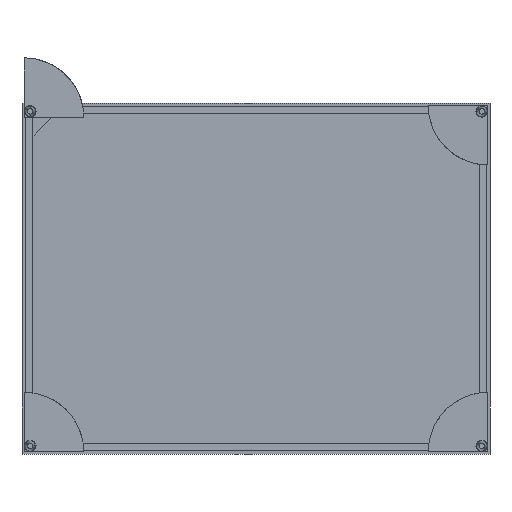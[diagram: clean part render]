
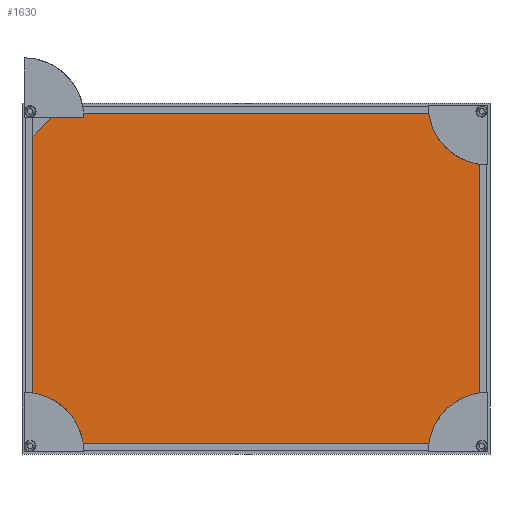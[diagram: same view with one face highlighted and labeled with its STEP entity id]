
A CAD part, front view. The second image highlights one B-rep face of the part: STEP entity #1630.
In plain terms, the highlighted free-form (B-spline) face has degree [1, 1] with [2, 2] control points.
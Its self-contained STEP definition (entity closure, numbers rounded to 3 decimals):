
#2 = VERTEX_POINT ( 'NONE', #1011 ) ;
#59 = CARTESIAN_POINT ( 'NONE',  ( 945.369, 881.404, 932.155 ) ) ;
#65 = CARTESIAN_POINT ( 'NONE',  ( 984.317, 881.404, 969.603 ) ) ;
#85 = CARTESIAN_POINT ( 'NONE',  ( 984.317, 881.404, 912.306 ) ) ;
#87 = VERTEX_POINT ( 'NONE', #2235 ) ;
#155 = B_SPLINE_CURVE_WITH_KNOTS ( 'NONE', 1,
 ( #1778, #2861 ),
 .UNSPECIFIED., .F., .F.,
 ( 2, 2 ),
 ( 0., 1. ),
 .UNSPECIFIED. ) ;
#157 = EDGE_CURVE ( 'NONE', #2427, #640, #884, .T. ) ;
#169 = B_SPLINE_CURVE_WITH_KNOTS ( 'NONE', 1,
 ( #1403, #65 ),
 .UNSPECIFIED., .F., .F.,
 ( 2, 2 ),
 ( 0., 0.886 ),
 .UNSPECIFIED. ) ;
#287 = EDGE_CURVE ( 'NONE', #2014, #2, #1122, .T. ) ;
#344 = EDGE_CURVE ( 'NONE', #1303, #87, #2377, .T. ) ;
#354 = CARTESIAN_POINT ( 'NONE',  ( -121.184, 881.404, 1770.304 ) ) ;
#401 = CARTESIAN_POINT ( 'NONE',  ( 927.02, 881.404, 1771.054 ) ) ;
#411 = EDGE_CURVE ( 'NONE', #1521, #1512, #2464, .T. ) ;
#426 = EDGE_LOOP ( 'NONE', ( #3200, #1503, #926, #2242, #1412, #3122, #2610, #1829, #1890, #2734, #2695, #3422, #780, #1682, #1189, #2316 ) ) ;
#441 = CARTESIAN_POINT ( 'NONE',  ( -179.231, 881.404, 1713.757 ) ) ;
#446 = B_SPLINE_CURVE_WITH_KNOTS ( 'NONE', 1,
 ( #1629, #1614 ),
 .UNSPECIFIED., .F., .F.,
 ( 2, 2 ),
 ( 0., 1. ),
 .UNSPECIFIED. ) ;
#451 = VERTEX_POINT ( 'NONE', #1193 ) ;
#456 = EDGE_CURVE ( 'NONE', #2, #451, #541, .T. ) ;
#468 = VERTEX_POINT ( 'NONE', #970 ) ;
#481 = CARTESIAN_POINT ( 'NONE',  ( -121.184, 881.404, 1770.304 ) ) ;
#494 = EDGE_CURVE ( 'NONE', #2848, #2014, #1578, .T. ) ;
#530 = CARTESIAN_POINT ( 'NONE',  ( 926.27, 881.404, 1770.304 ) ) ;
#541 = B_SPLINE_CURVE_WITH_KNOTS ( 'NONE', 1,
 ( #754, #441 ),
 .UNSPECIFIED., .F., .F.,
 ( 2, 2 ),
 ( 0., 0.886 ),
 .UNSPECIFIED. ) ;
#550 = CARTESIAN_POINT ( 'NONE',  ( -121.184, 881.404, 913.056 ) ) ;
#640 = VERTEX_POINT ( 'NONE', #2901 ) ;
#691 = B_SPLINE_CURVE_WITH_KNOTS ( 'NONE', 1,
 ( #2784, #2267 ),
 .UNSPECIFIED., .F., .F.,
 ( 2, 2 ),
 ( 0., 1. ),
 .UNSPECIFIED. ) ;
#754 = CARTESIAN_POINT ( 'NONE',  ( -179.231, 881.404, 969.603 ) ) ;
#755 = EDGE_CURVE ( 'NONE', #3315, #1525, #3343, .T. ) ;
#780 = ORIENTED_EDGE ( 'NONE', *, *, #1161, .F. ) ;
#845 = CARTESIAN_POINT ( 'NONE',  ( 983.567, 881.404, 1713.007 ) ) ;
#877 = CARTESIAN_POINT ( 'NONE',  ( 984.317, 881.404, 1771.054 ) ) ;
#884 = B_SPLINE_CURVE_WITH_KNOTS ( 'NONE', 3,
 ( #1450, #59, #2752, #2789 ),
 .UNSPECIFIED., .F., .F.,
 ( 4, 4 ),
 ( 0., 1. ),
 .UNSPECIFIED. ) ;
#909 = EDGE_CURVE ( 'NONE', #1296, #1303, #155, .T. ) ;
#913 = FACE_OUTER_BOUND ( 'NONE', #426, .T. ) ;
#920 = CARTESIAN_POINT ( 'NONE',  ( -178.481, 881.404, 970.353 ) ) ;
#926 = ORIENTED_EDGE ( 'NONE', *, *, #456, .F. ) ;
#970 = CARTESIAN_POINT ( 'NONE',  ( 984.317, 881.404, 969.603 ) ) ;
#1011 = CARTESIAN_POINT ( 'NONE',  ( -179.231, 881.404, 969.603 ) ) ;
#1017 = CARTESIAN_POINT ( 'NONE',  ( -121.184, 881.404, 913.056 ) ) ;
#1122 = B_SPLINE_CURVE_WITH_KNOTS ( 'NONE', 1,
 ( #2659, #3472 ),
 .UNSPECIFIED., .F., .F.,
 ( 2, 2 ),
 ( 0., 1. ),
 .UNSPECIFIED. ) ;
#1161 = EDGE_CURVE ( 'NONE', #1512, #1585, #446, .T. ) ;
#1167 = CARTESIAN_POINT ( 'NONE',  ( 927.02, 881.404, 912.306 ) ) ;
#1176 = CARTESIAN_POINT ( 'NONE',  ( 926.27, 881.404, 1770.304 ) ) ;
#1189 = ORIENTED_EDGE ( 'NONE', *, *, #2315, .F. ) ;
#1193 = CARTESIAN_POINT ( 'NONE',  ( -179.231, 881.404, 1713.757 ) ) ;
#1263 = CARTESIAN_POINT ( 'NONE',  ( 926.27, 881.404, 913.056 ) ) ;
#1283 = B_SPLINE_SURFACE_WITH_KNOTS ( 'NONE', 1, 1, ( 
 ( #2487, #85 ),
 ( #1689, #877 ) ),
 .UNSPECIFIED., .F., .F., .F.,
 ( 2, 2 ),
 ( 2, 2 ),
 ( 0., 1. ),
 ( 0., 1. ),
 .UNSPECIFIED. ) ;
#1296 = VERTEX_POINT ( 'NONE', #2527 ) ;
#1298 = CARTESIAN_POINT ( 'NONE',  ( -121.934, 881.404, 912.306 ) ) ;
#1303 = VERTEX_POINT ( 'NONE', #354 ) ;
#1316 = CARTESIAN_POINT ( 'NONE',  ( 927.02, 881.404, 1771.054 ) ) ;
#1337 = CARTESIAN_POINT ( 'NONE',  ( -121.934, 881.404, 912.306 ) ) ;
#1364 = CARTESIAN_POINT ( 'NONE',  ( 984.317, 881.404, 1713.757 ) ) ;
#1403 = CARTESIAN_POINT ( 'NONE',  ( 984.317, 881.404, 1713.757 ) ) ;
#1412 = ORIENTED_EDGE ( 'NONE', *, *, #494, .F. ) ;
#1450 = CARTESIAN_POINT ( 'NONE',  ( 926.27, 881.404, 913.056 ) ) ;
#1503 = ORIENTED_EDGE ( 'NONE', *, *, #1647, .F. ) ;
#1512 = VERTEX_POINT ( 'NONE', #530 ) ;
#1521 = VERTEX_POINT ( 'NONE', #1316 ) ;
#1525 = VERTEX_POINT ( 'NONE', #1298 ) ;
#1546 = CARTESIAN_POINT ( 'NONE',  ( -178.481, 881.404, 970.353 ) ) ;
#1578 = B_SPLINE_CURVE_WITH_KNOTS ( 'NONE', 1,
 ( #1017, #1546 ),
 .UNSPECIFIED., .F., .F.,
 ( 2, 2 ),
 ( 0., 1. ),
 .UNSPECIFIED. ) ;
#1585 = VERTEX_POINT ( 'NONE', #845 ) ;
#1614 = CARTESIAN_POINT ( 'NONE',  ( 983.567, 881.404, 1713.007 ) ) ;
#1629 = CARTESIAN_POINT ( 'NONE',  ( 926.27, 881.404, 1770.304 ) ) ;
#1630 = ADVANCED_FACE ( 'NONE', ( #913 ), #1283, .F. ) ;
#1647 = EDGE_CURVE ( 'NONE', #451, #1296, #1956, .T. ) ;
#1682 = ORIENTED_EDGE ( 'NONE', *, *, #411, .F. ) ;
#1689 = CARTESIAN_POINT ( 'NONE',  ( -179.231, 881.404, 1771.054 ) ) ;
#1733 = CARTESIAN_POINT ( 'NONE',  ( 927.02, 881.404, 1771.054 ) ) ;
#1778 = CARTESIAN_POINT ( 'NONE',  ( -178.481, 881.404, 1713.007 ) ) ;
#1820 = B_SPLINE_CURVE_WITH_KNOTS ( 'NONE', 1,
 ( #2182, #1364 ),
 .UNSPECIFIED., .F., .F.,
 ( 2, 2 ),
 ( 0., 1. ),
 .UNSPECIFIED. ) ;
#1829 = ORIENTED_EDGE ( 'NONE', *, *, #2581, .F. ) ;
#1890 = ORIENTED_EDGE ( 'NONE', *, *, #157, .T. ) ;
#1943 = CARTESIAN_POINT ( 'NONE',  ( 984.317, 881.404, 1713.757 ) ) ;
#1956 = B_SPLINE_CURVE_WITH_KNOTS ( 'NONE', 1,
 ( #2259, #1977 ),
 .UNSPECIFIED., .F., .F.,
 ( 2, 2 ),
 ( 0., 1. ),
 .UNSPECIFIED. ) ;
#1977 = CARTESIAN_POINT ( 'NONE',  ( -178.481, 881.404, 1713.007 ) ) ;
#2014 = VERTEX_POINT ( 'NONE', #920 ) ;
#2115 = CARTESIAN_POINT ( 'NONE',  ( 927.02, 881.404, 912.306 ) ) ;
#2182 = CARTESIAN_POINT ( 'NONE',  ( 983.567, 881.404, 1713.007 ) ) ;
#2213 = EDGE_CURVE ( 'NONE', #1525, #2848, #3012, .T. ) ;
#2235 = CARTESIAN_POINT ( 'NONE',  ( -121.934, 881.404, 1771.054 ) ) ;
#2242 = ORIENTED_EDGE ( 'NONE', *, *, #287, .F. ) ;
#2259 = CARTESIAN_POINT ( 'NONE',  ( -179.231, 881.404, 1713.757 ) ) ;
#2267 = CARTESIAN_POINT ( 'NONE',  ( 983.567, 881.404, 970.353 ) ) ;
#2315 = EDGE_CURVE ( 'NONE', #87, #1521, #3267, .T. ) ;
#2316 = ORIENTED_EDGE ( 'NONE', *, *, #344, .F. ) ;
#2377 = B_SPLINE_CURVE_WITH_KNOTS ( 'NONE', 1,
 ( #481, #3179 ),
 .UNSPECIFIED., .F., .F.,
 ( 2, 2 ),
 ( 0., 1. ),
 .UNSPECIFIED. ) ;
#2427 = VERTEX_POINT ( 'NONE', #1263 ) ;
#2464 = B_SPLINE_CURVE_WITH_KNOTS ( 'NONE', 1,
 ( #1733, #1176 ),
 .UNSPECIFIED., .F., .F.,
 ( 2, 2 ),
 ( 0., 1. ),
 .UNSPECIFIED. ) ;
#2487 = CARTESIAN_POINT ( 'NONE',  ( -179.231, 881.404, 912.306 ) ) ;
#2509 = CARTESIAN_POINT ( 'NONE',  ( -121.934, 881.404, 1771.054 ) ) ;
#2527 = CARTESIAN_POINT ( 'NONE',  ( -178.481, 881.404, 1713.007 ) ) ;
#2581 = EDGE_CURVE ( 'NONE', #2427, #3315, #3141, .T. ) ;
#2610 = ORIENTED_EDGE ( 'NONE', *, *, #755, .F. ) ;
#2642 = CARTESIAN_POINT ( 'NONE',  ( -121.184, 881.404, 913.056 ) ) ;
#2659 = CARTESIAN_POINT ( 'NONE',  ( -178.481, 881.404, 970.353 ) ) ;
#2695 = ORIENTED_EDGE ( 'NONE', *, *, #3146, .F. ) ;
#2703 = CARTESIAN_POINT ( 'NONE',  ( -121.934, 881.404, 912.306 ) ) ;
#2734 = ORIENTED_EDGE ( 'NONE', *, *, #3032, .F. ) ;
#2752 = CARTESIAN_POINT ( 'NONE',  ( 964.468, 881.404, 951.254 ) ) ;
#2784 = CARTESIAN_POINT ( 'NONE',  ( 984.317, 881.404, 969.603 ) ) ;
#2789 = CARTESIAN_POINT ( 'NONE',  ( 983.567, 881.404, 970.353 ) ) ;
#2848 = VERTEX_POINT ( 'NONE', #2642 ) ;
#2861 = CARTESIAN_POINT ( 'NONE',  ( -121.184, 881.404, 1770.304 ) ) ;
#2869 = EDGE_CURVE ( 'NONE', #1585, #3163, #1820, .T. ) ;
#2899 = CARTESIAN_POINT ( 'NONE',  ( 927.02, 881.404, 912.306 ) ) ;
#2901 = CARTESIAN_POINT ( 'NONE',  ( 983.567, 881.404, 970.353 ) ) ;
#3012 = B_SPLINE_CURVE_WITH_KNOTS ( 'NONE', 1,
 ( #1337, #550 ),
 .UNSPECIFIED., .F., .F.,
 ( 2, 2 ),
 ( 0., 1. ),
 .UNSPECIFIED. ) ;
#3032 = EDGE_CURVE ( 'NONE', #468, #640, #691, .T. ) ;
#3122 = ORIENTED_EDGE ( 'NONE', *, *, #2213, .F. ) ;
#3141 = B_SPLINE_CURVE_WITH_KNOTS ( 'NONE', 1,
 ( #3332, #1167 ),
 .UNSPECIFIED., .F., .F.,
 ( 2, 2 ),
 ( 0., 1. ),
 .UNSPECIFIED. ) ;
#3146 = EDGE_CURVE ( 'NONE', #3163, #468, #169, .T. ) ;
#3163 = VERTEX_POINT ( 'NONE', #1943 ) ;
#3179 = CARTESIAN_POINT ( 'NONE',  ( -121.934, 881.404, 1771.054 ) ) ;
#3200 = ORIENTED_EDGE ( 'NONE', *, *, #909, .F. ) ;
#3267 = B_SPLINE_CURVE_WITH_KNOTS ( 'NONE', 1,
 ( #2509, #401 ),
 .UNSPECIFIED., .F., .F.,
 ( 2, 2 ),
 ( 0., 0.917 ),
 .UNSPECIFIED. ) ;
#3315 = VERTEX_POINT ( 'NONE', #2899 ) ;
#3332 = CARTESIAN_POINT ( 'NONE',  ( 926.27, 881.404, 913.056 ) ) ;
#3343 = B_SPLINE_CURVE_WITH_KNOTS ( 'NONE', 1,
 ( #2115, #2703 ),
 .UNSPECIFIED., .F., .F.,
 ( 2, 2 ),
 ( 0., 0.917 ),
 .UNSPECIFIED. ) ;
#3422 = ORIENTED_EDGE ( 'NONE', *, *, #2869, .F. ) ;
#3472 = CARTESIAN_POINT ( 'NONE',  ( -179.231, 881.404, 969.603 ) ) ;
